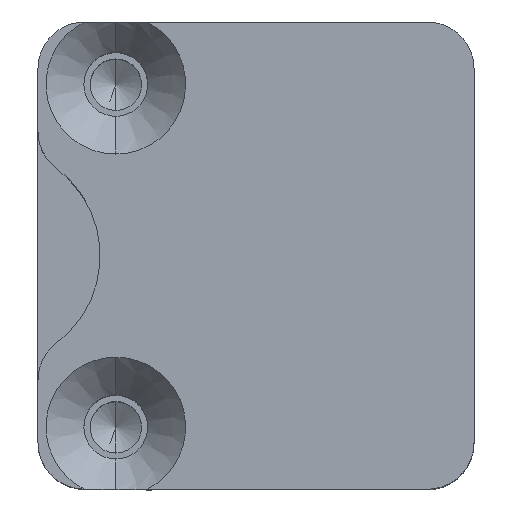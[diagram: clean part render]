
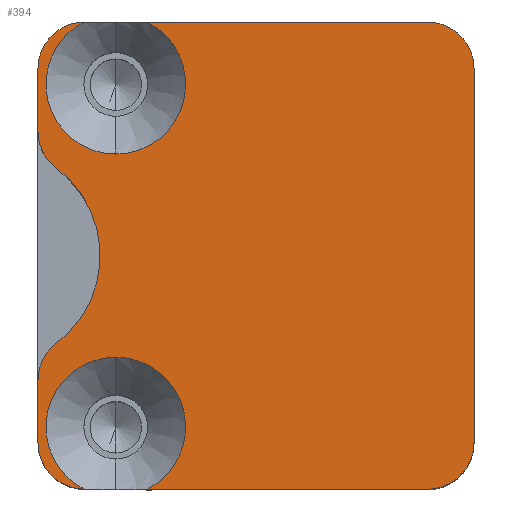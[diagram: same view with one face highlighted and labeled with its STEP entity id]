
A CAD part, top view. The second image highlights one B-rep face of the part: STEP entity #394.
In plain terms, the highlighted planar face has unit normal (0, 0, 1).
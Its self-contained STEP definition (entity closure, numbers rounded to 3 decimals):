
#394=ADVANCED_FACE('',(#698),#568,.F.);
#568=PLANE('',#3477);
#698=FACE_OUTER_BOUND('',#871,.T.);
#871=EDGE_LOOP('',(#1316,#1317,#1318,#1319,#1320,#1321,#1322,#1323,#1324,
#1325,#1326,#1327,#1328,#1329,#1330,#1331));
#1100=CIRCLE('',#3460,4.48);
#1103=CIRCLE('',#3465,4.48);
#1104=CIRCLE('',#3468,4.48);
#1105=CIRCLE('',#3469,3.);
#1106=CIRCLE('',#3470,3.);
#1107=CIRCLE('',#3471,7.);
#1108=CIRCLE('',#3472,3.);
#1109=CIRCLE('',#3473,3.);
#1110=CIRCLE('',#3474,4.48);
#1111=CIRCLE('',#3475,3.);
#1112=CIRCLE('',#3476,3.);
#1316=ORIENTED_EDGE('',*,*,#2529,.F.);
#1317=ORIENTED_EDGE('',*,*,#2530,.T.);
#1318=ORIENTED_EDGE('',*,*,#2531,.T.);
#1319=ORIENTED_EDGE('',*,*,#2532,.T.);
#1320=ORIENTED_EDGE('',*,*,#2533,.F.);
#1321=ORIENTED_EDGE('',*,*,#2534,.T.);
#1322=ORIENTED_EDGE('',*,*,#2535,.T.);
#1323=ORIENTED_EDGE('',*,*,#2536,.T.);
#1324=ORIENTED_EDGE('',*,*,#2537,.F.);
#1325=ORIENTED_EDGE('',*,*,#2525,.F.);
#1326=ORIENTED_EDGE('',*,*,#2538,.T.);
#1327=ORIENTED_EDGE('',*,*,#2539,.T.);
#1328=ORIENTED_EDGE('',*,*,#2540,.T.);
#1329=ORIENTED_EDGE('',*,*,#2541,.T.);
#1330=ORIENTED_EDGE('',*,*,#2542,.T.);
#1331=ORIENTED_EDGE('',*,*,#2516,.F.);
#2199=VERTEX_POINT('',#4822);
#2200=VERTEX_POINT('',#4824);
#2207=VERTEX_POINT('',#4850);
#2208=VERTEX_POINT('',#4852);
#2209=VERTEX_POINT('',#4859);
#2210=VERTEX_POINT('',#4861);
#2211=VERTEX_POINT('',#4863);
#2212=VERTEX_POINT('',#4865);
#2213=VERTEX_POINT('',#4867);
#2214=VERTEX_POINT('',#4869);
#2215=VERTEX_POINT('',#4871);
#2216=VERTEX_POINT('',#4873);
#2217=VERTEX_POINT('',#4876);
#2218=VERTEX_POINT('',#4878);
#2219=VERTEX_POINT('',#4880);
#2220=VERTEX_POINT('',#4882);
#2516=EDGE_CURVE('',#2199,#2200,#1100,.T.);
#2525=EDGE_CURVE('',#2207,#2208,#1103,.T.);
#2529=EDGE_CURVE('',#2209,#2199,#1104,.T.);
#2530=EDGE_CURVE('',#2209,#2210,#1105,.T.);
#2531=EDGE_CURVE('',#2210,#2211,#2947,.T.);
#2532=EDGE_CURVE('',#2211,#2212,#1106,.T.);
#2533=EDGE_CURVE('',#2213,#2212,#1107,.T.);
#2534=EDGE_CURVE('',#2213,#2214,#1108,.T.);
#2535=EDGE_CURVE('',#2214,#2215,#2948,.T.);
#2536=EDGE_CURVE('',#2215,#2216,#1109,.T.);
#2537=EDGE_CURVE('',#2208,#2216,#1110,.T.);
#2538=EDGE_CURVE('',#2207,#2217,#2949,.T.);
#2539=EDGE_CURVE('',#2217,#2218,#1111,.T.);
#2540=EDGE_CURVE('',#2218,#2219,#2950,.T.);
#2541=EDGE_CURVE('',#2219,#2220,#1112,.T.);
#2542=EDGE_CURVE('',#2220,#2200,#2951,.T.);
#2947=LINE('',#4862,#3190);
#2948=LINE('',#4870,#3191);
#2949=LINE('',#4875,#3192);
#2950=LINE('',#4879,#3193);
#2951=LINE('',#4883,#3194);
#3190=VECTOR('',#3922,1.);
#3191=VECTOR('',#3929,1.);
#3192=VECTOR('',#3934,1.);
#3193=VECTOR('',#3937,1.);
#3194=VECTOR('',#3940,1.);
#3460=AXIS2_PLACEMENT_3D('',#4823,#3895,#3896);
#3465=AXIS2_PLACEMENT_3D('',#4851,#3909,#3910);
#3468=AXIS2_PLACEMENT_3D('',#4858,#3918,#3919);
#3469=AXIS2_PLACEMENT_3D('',#4860,#3920,#3921);
#3470=AXIS2_PLACEMENT_3D('',#4864,#3923,#3924);
#3471=AXIS2_PLACEMENT_3D('',#4866,#3925,#3926);
#3472=AXIS2_PLACEMENT_3D('',#4868,#3927,#3928);
#3473=AXIS2_PLACEMENT_3D('',#4872,#3930,#3931);
#3474=AXIS2_PLACEMENT_3D('',#4874,#3932,#3933);
#3475=AXIS2_PLACEMENT_3D('',#4877,#3935,#3936);
#3476=AXIS2_PLACEMENT_3D('',#4881,#3938,#3939);
#3477=AXIS2_PLACEMENT_3D('',#4884,#3941,#3942);
#3895=DIRECTION('',(0.,0.,1.));
#3896=DIRECTION('',(0.,1.,0.));
#3909=DIRECTION('',(0.,0.,1.));
#3910=DIRECTION('',(0.,1.,0.));
#3918=DIRECTION('',(0.,0.,1.));
#3919=DIRECTION('',(0.,1.,0.));
#3920=DIRECTION('',(0.,0.,1.));
#3921=DIRECTION('',(0.,-1.,0.));
#3922=DIRECTION('',(0.,-1.,0.));
#3923=DIRECTION('',(0.,0.,1.));
#3924=DIRECTION('',(0.,-1.,0.));
#3925=DIRECTION('',(0.,0.,1.));
#3926=DIRECTION('',(0.,1.,0.));
#3927=DIRECTION('',(0.,0.,1.));
#3928=DIRECTION('',(0.,-1.,0.));
#3929=DIRECTION('',(0.,-1.,0.));
#3930=DIRECTION('',(0.,0.,1.));
#3931=DIRECTION('',(0.,-1.,0.));
#3932=DIRECTION('',(0.,0.,1.));
#3933=DIRECTION('',(0.,1.,0.));
#3934=DIRECTION('',(1.,0.,0.));
#3935=DIRECTION('',(0.,0.,1.));
#3936=DIRECTION('',(0.,-1.,0.));
#3937=DIRECTION('',(0.,1.,0.));
#3938=DIRECTION('',(0.,0.,1.));
#3939=DIRECTION('',(0.,-1.,0.));
#3940=DIRECTION('',(-1.,0.,0.));
#3941=DIRECTION('',(0.,0.,-1.));
#3942=DIRECTION('',(0.,1.,0.));
#4822=CARTESIAN_POINT('',(-0.649,7.414,79.811));
#4823=CARTESIAN_POINT('',(-0.649,11.894,79.811));
#4824=CARTESIAN_POINT('',(1.368,15.894,79.811));
#4850=CARTESIAN_POINT('',(1.368,-14.106,79.811));
#4851=CARTESIAN_POINT('',(-0.649,-10.106,79.811));
#4852=CARTESIAN_POINT('',(-0.649,-5.626,79.811));
#4858=CARTESIAN_POINT('',(-0.649,11.894,79.811));
#4859=CARTESIAN_POINT('',(-2.667,15.894,79.811));
#4860=CARTESIAN_POINT('',(-2.649,12.894,79.811));
#4861=CARTESIAN_POINT('',(-5.649,12.894,79.811));
#4862=CARTESIAN_POINT('',(-5.649,-14.106,79.811));
#4863=CARTESIAN_POINT('',(-5.649,8.894,79.811));
#4864=CARTESIAN_POINT('',(-2.649,8.894,79.811));
#4865=CARTESIAN_POINT('',(-4.449,6.494,79.811));
#4866=CARTESIAN_POINT('',(-8.649,0.894,79.811));
#4867=CARTESIAN_POINT('',(-4.449,-4.706,79.811));
#4868=CARTESIAN_POINT('',(-2.649,-7.106,79.811));
#4869=CARTESIAN_POINT('',(-5.649,-7.106,79.811));
#4870=CARTESIAN_POINT('',(-5.649,-14.106,79.811));
#4871=CARTESIAN_POINT('',(-5.649,-11.106,79.811));
#4872=CARTESIAN_POINT('',(-2.649,-11.106,79.811));
#4873=CARTESIAN_POINT('',(-2.667,-14.106,79.811));
#4874=CARTESIAN_POINT('',(-0.649,-10.106,79.811));
#4875=CARTESIAN_POINT('',(22.351,-14.106,79.811));
#4876=CARTESIAN_POINT('',(19.351,-14.106,79.811));
#4877=CARTESIAN_POINT('',(19.351,-11.106,79.811));
#4878=CARTESIAN_POINT('',(22.351,-11.106,79.811));
#4879=CARTESIAN_POINT('',(22.351,-14.106,79.811));
#4880=CARTESIAN_POINT('',(22.351,12.894,79.811));
#4881=CARTESIAN_POINT('',(19.351,12.894,79.811));
#4882=CARTESIAN_POINT('',(19.351,15.894,79.811));
#4883=CARTESIAN_POINT('',(22.351,15.894,79.811));
#4884=CARTESIAN_POINT('',(8.351,0.894,79.811));
